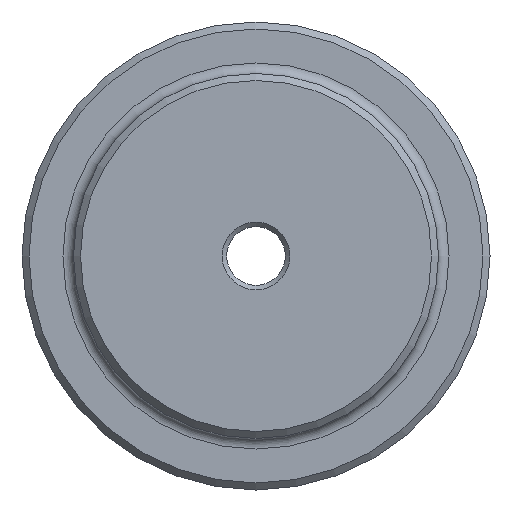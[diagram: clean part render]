
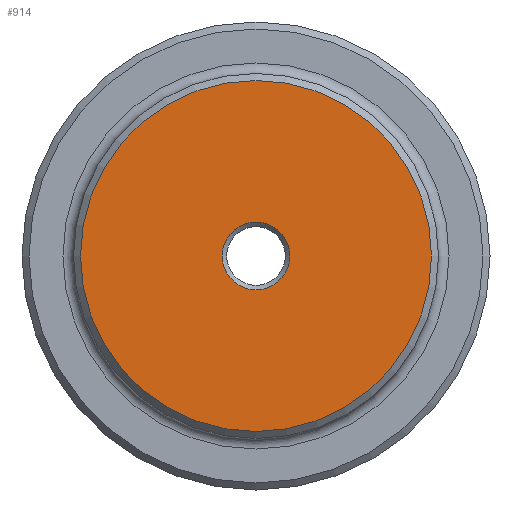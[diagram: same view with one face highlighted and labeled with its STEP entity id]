
A CAD part, left-side view. The second image highlights one B-rep face of the part: STEP entity #914.
In plain terms, the highlighted planar face has unit normal (-1, 0, 0).
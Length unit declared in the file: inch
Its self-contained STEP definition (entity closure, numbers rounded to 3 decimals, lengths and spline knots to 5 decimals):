
#47 = CARTESIAN_POINT ( 'NONE',  ( 0., 0., -1.5 ) ) ;
#92 = CARTESIAN_POINT ( 'NONE',  ( 0., 0., 0. ) ) ;
#128 = EDGE_CURVE ( 'NONE', #1382, #1382, #543, .T. ) ;
#144 = VERTEX_POINT ( 'NONE', #1188 ) ;
#151 = ORIENTED_EDGE ( 'NONE', *, *, #128, .T. ) ;
#181 = EDGE_LOOP ( 'NONE', ( #1064 ) ) ;
#207 = DIRECTION ( 'NONE',  ( 1., 0., 0. ) ) ;
#343 = CARTESIAN_POINT ( 'NONE',  ( 0., 0., 0. ) ) ;
#357 = EDGE_LOOP ( 'NONE', ( #151 ) ) ;
#382 = PLANE ( 'NONE',  #1163 ) ;
#396 = DIRECTION ( 'NONE',  ( 0., 0., -1. ) ) ;
#543 = CIRCLE ( 'NONE', #1683, 1.5 ) ;
#598 = DIRECTION ( 'NONE',  ( 1., 0., 0. ) ) ;
#624 = CARTESIAN_POINT ( 'NONE',  ( 0., 0., 0. ) ) ;
#642 = FACE_BOUND ( 'NONE', #181, .T. ) ;
#786 = CIRCLE ( 'NONE', #1244, 0.29015 ) ;
#829 = EDGE_CURVE ( 'NONE', #144, #144, #786, .T. ) ;
#843 = DIRECTION ( 'NONE',  ( 0., 0., -1. ) ) ;
#860 = FACE_OUTER_BOUND ( 'NONE', #357, .T. ) ;
#914 = ADVANCED_FACE ( 'NONE', ( #642, #860 ), #382, .F. ) ;
#1064 = ORIENTED_EDGE ( 'NONE', *, *, #829, .T. ) ;
#1163 = AXIS2_PLACEMENT_3D ( 'NONE', #624, #207, #1381 ) ;
#1188 = CARTESIAN_POINT ( 'NONE',  ( 0., 0., -0.29015 ) ) ;
#1244 = AXIS2_PLACEMENT_3D ( 'NONE', #343, #598, #843 ) ;
#1381 = DIRECTION ( 'NONE',  ( 0., 0., -1. ) ) ;
#1382 = VERTEX_POINT ( 'NONE', #47 ) ;
#1574 = DIRECTION ( 'NONE',  ( -1., 0., 0. ) ) ;
#1683 = AXIS2_PLACEMENT_3D ( 'NONE', #92, #1574, #396 ) ;
